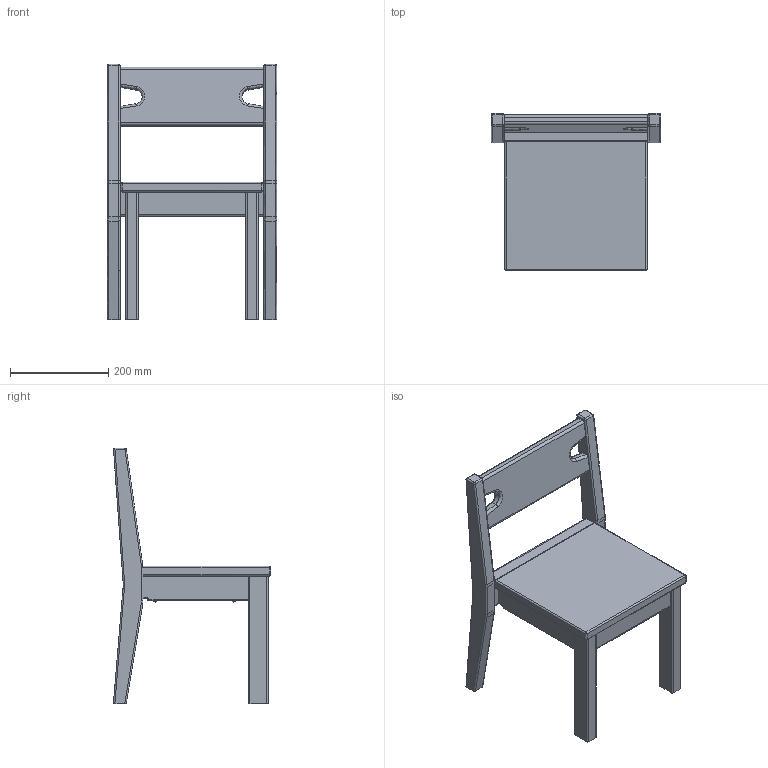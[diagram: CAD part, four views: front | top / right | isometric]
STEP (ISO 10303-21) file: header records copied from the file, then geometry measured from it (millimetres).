
FILE_DESCRIPTION(/* description */ (''),/* implementation_level */ '2;1');
FILE_NAME(/* name */ 'kinoshita_baobabaland_k216',/* time_stamp */ '2025-02-26T20:31:05+09:00',/* author */ (''),/* organization */ (''),/* preprocessor_version */ 'ST-DEVELOPER v16.5',/* originating_system */ '',/* authorisation */ '');
FILE_SCHEMA (('AUTOMOTIVE_DESIGN'));
Length unit declared in the file: millimetre
Products named in the file (1): Document
Bounding box: 345.07 x 320.07 x 520.11 mm (x, y, z)
Volume: 5235540.8 mm3; surface area: 571479.2 mm2
Topology: 5 solids, 5 shells, 261 faces, 659 edges, 388 vertices
Faces by surface type: bspline 159, plane 102
Entity records: 16867 total; most frequent: CARTESIAN_POINT 12939, ORIENTED_EDGE 1274, EDGE_CURVE 637, B_SPLINE_CURVE_WITH_KNOTS 440, VERTEX_POINT 388, EDGE_LOOP 269, ADVANCED_FACE 261, FACE_OUTER_BOUND 261
